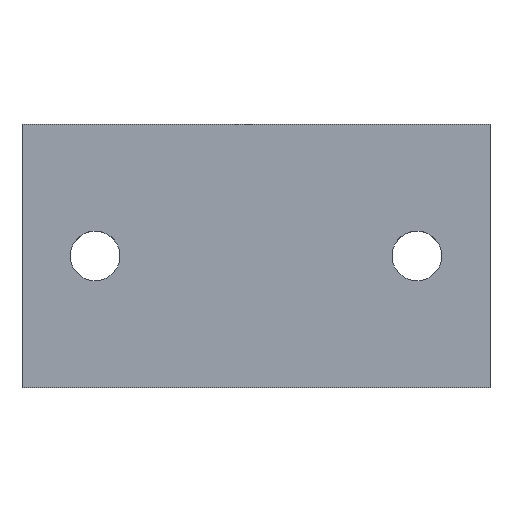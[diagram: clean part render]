
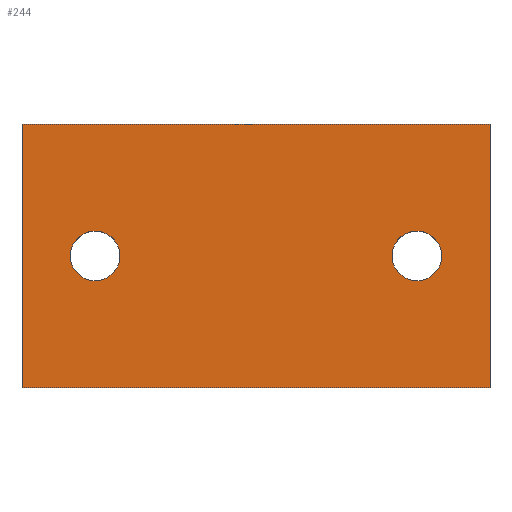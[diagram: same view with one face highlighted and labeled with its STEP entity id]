
A CAD part, top view. The second image highlights one B-rep face of the part: STEP entity #244.
In plain terms, the highlighted planar face has unit normal (0, 0, 1).
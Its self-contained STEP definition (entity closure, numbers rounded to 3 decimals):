
#24 = VERTEX_POINT('',#25);
#25 = CARTESIAN_POINT('',(-16.,-9.,8.));
#32 = PLANE('',#33);
#33 = AXIS2_PLACEMENT_3D('',#34,#35,#36);
#34 = CARTESIAN_POINT('',(-16.,-9.,0.));
#35 = DIRECTION('',(1.,0.,0.));
#36 = DIRECTION('',(0.,0.,1.));
#44 = PLANE('',#45);
#45 = AXIS2_PLACEMENT_3D('',#46,#47,#48);
#46 = CARTESIAN_POINT('',(-16.,-9.,0.));
#47 = DIRECTION('',(0.,1.,0.));
#48 = DIRECTION('',(0.,0.,1.));
#85 = VERTEX_POINT('',#86);
#86 = CARTESIAN_POINT('',(-16.,9.,8.));
#100 = PLANE('',#101);
#101 = AXIS2_PLACEMENT_3D('',#102,#103,#104);
#102 = CARTESIAN_POINT('',(-16.,9.,0.));
#103 = DIRECTION('',(0.,1.,0.));
#104 = DIRECTION('',(0.,0.,1.));
#112 = EDGE_CURVE('',#24,#85,#113,.T.);
#113 = SURFACE_CURVE('',#114,(#118,#125),.PCURVE_S1.);
#114 = LINE('',#115,#116);
#115 = CARTESIAN_POINT('',(-16.,-9.,8.));
#116 = VECTOR('',#117,1.);
#117 = DIRECTION('',(0.,1.,0.));
#118 = PCURVE('',#32,#119);
#119 = DEFINITIONAL_REPRESENTATION('',(#120),#124);
#120 = LINE('',#121,#122);
#121 = CARTESIAN_POINT('',(8.,0.));
#122 = VECTOR('',#123,1.);
#123 = DIRECTION('',(0.,-1.));
#124 = ( GEOMETRIC_REPRESENTATION_CONTEXT(2) 
PARAMETRIC_REPRESENTATION_CONTEXT() REPRESENTATION_CONTEXT('2D SPACE',''
  ) );
#125 = PCURVE('',#126,#131);
#126 = PLANE('',#127);
#127 = AXIS2_PLACEMENT_3D('',#128,#129,#130);
#128 = CARTESIAN_POINT('',(-16.,-9.,8.));
#129 = DIRECTION('',(0.,0.,1.));
#130 = DIRECTION('',(1.,0.,0.));
#131 = DEFINITIONAL_REPRESENTATION('',(#132),#136);
#132 = LINE('',#133,#134);
#133 = CARTESIAN_POINT('',(0.,0.));
#134 = VECTOR('',#135,1.);
#135 = DIRECTION('',(0.,1.));
#136 = ( GEOMETRIC_REPRESENTATION_CONTEXT(2) 
PARAMETRIC_REPRESENTATION_CONTEXT() REPRESENTATION_CONTEXT('2D SPACE',''
  ) );
#165 = EDGE_CURVE('',#24,#166,#168,.T.);
#166 = VERTEX_POINT('',#167);
#167 = CARTESIAN_POINT('',(16.,-9.,8.));
#168 = SURFACE_CURVE('',#169,(#173,#180),.PCURVE_S1.);
#169 = LINE('',#170,#171);
#170 = CARTESIAN_POINT('',(-16.,-9.,8.));
#171 = VECTOR('',#172,1.);
#172 = DIRECTION('',(1.,0.,0.));
#173 = PCURVE('',#44,#174);
#174 = DEFINITIONAL_REPRESENTATION('',(#175),#179);
#175 = LINE('',#176,#177);
#176 = CARTESIAN_POINT('',(8.,0.));
#177 = VECTOR('',#178,1.);
#178 = DIRECTION('',(0.,1.));
#179 = ( GEOMETRIC_REPRESENTATION_CONTEXT(2) 
PARAMETRIC_REPRESENTATION_CONTEXT() REPRESENTATION_CONTEXT('2D SPACE',''
  ) );
#180 = PCURVE('',#126,#181);
#181 = DEFINITIONAL_REPRESENTATION('',(#182),#186);
#182 = LINE('',#183,#184);
#183 = CARTESIAN_POINT('',(0.,0.));
#184 = VECTOR('',#185,1.);
#185 = DIRECTION('',(1.,0.));
#186 = ( GEOMETRIC_REPRESENTATION_CONTEXT(2) 
PARAMETRIC_REPRESENTATION_CONTEXT() REPRESENTATION_CONTEXT('2D SPACE',''
  ) );
#202 = PLANE('',#203);
#203 = AXIS2_PLACEMENT_3D('',#204,#205,#206);
#204 = CARTESIAN_POINT('',(16.,-9.,0.));
#205 = DIRECTION('',(1.,0.,0.));
#206 = DIRECTION('',(0.,0.,1.));
#244 = ADVANCED_FACE('',(#245,#293,#328),#126,.T.);
#245 = FACE_BOUND('',#246,.T.);
#246 = EDGE_LOOP('',(#247,#248,#249,#272));
#247 = ORIENTED_EDGE('',*,*,#112,.F.);
#248 = ORIENTED_EDGE('',*,*,#165,.T.);
#249 = ORIENTED_EDGE('',*,*,#250,.T.);
#250 = EDGE_CURVE('',#166,#251,#253,.T.);
#251 = VERTEX_POINT('',#252);
#252 = CARTESIAN_POINT('',(16.,9.,8.));
#253 = SURFACE_CURVE('',#254,(#258,#265),.PCURVE_S1.);
#254 = LINE('',#255,#256);
#255 = CARTESIAN_POINT('',(16.,-9.,8.));
#256 = VECTOR('',#257,1.);
#257 = DIRECTION('',(0.,1.,0.));
#258 = PCURVE('',#126,#259);
#259 = DEFINITIONAL_REPRESENTATION('',(#260),#264);
#260 = LINE('',#261,#262);
#261 = CARTESIAN_POINT('',(32.,0.));
#262 = VECTOR('',#263,1.);
#263 = DIRECTION('',(0.,1.));
#264 = ( GEOMETRIC_REPRESENTATION_CONTEXT(2) 
PARAMETRIC_REPRESENTATION_CONTEXT() REPRESENTATION_CONTEXT('2D SPACE',''
  ) );
#265 = PCURVE('',#202,#266);
#266 = DEFINITIONAL_REPRESENTATION('',(#267),#271);
#267 = LINE('',#268,#269);
#268 = CARTESIAN_POINT('',(8.,0.));
#269 = VECTOR('',#270,1.);
#270 = DIRECTION('',(0.,-1.));
#271 = ( GEOMETRIC_REPRESENTATION_CONTEXT(2) 
PARAMETRIC_REPRESENTATION_CONTEXT() REPRESENTATION_CONTEXT('2D SPACE',''
  ) );
#272 = ORIENTED_EDGE('',*,*,#273,.F.);
#273 = EDGE_CURVE('',#85,#251,#274,.T.);
#274 = SURFACE_CURVE('',#275,(#279,#286),.PCURVE_S1.);
#275 = LINE('',#276,#277);
#276 = CARTESIAN_POINT('',(-16.,9.,8.));
#277 = VECTOR('',#278,1.);
#278 = DIRECTION('',(1.,0.,0.));
#279 = PCURVE('',#126,#280);
#280 = DEFINITIONAL_REPRESENTATION('',(#281),#285);
#281 = LINE('',#282,#283);
#282 = CARTESIAN_POINT('',(0.,18.));
#283 = VECTOR('',#284,1.);
#284 = DIRECTION('',(1.,0.));
#285 = ( GEOMETRIC_REPRESENTATION_CONTEXT(2) 
PARAMETRIC_REPRESENTATION_CONTEXT() REPRESENTATION_CONTEXT('2D SPACE',''
  ) );
#286 = PCURVE('',#100,#287);
#287 = DEFINITIONAL_REPRESENTATION('',(#288),#292);
#288 = LINE('',#289,#290);
#289 = CARTESIAN_POINT('',(8.,0.));
#290 = VECTOR('',#291,1.);
#291 = DIRECTION('',(0.,1.));
#292 = ( GEOMETRIC_REPRESENTATION_CONTEXT(2) 
PARAMETRIC_REPRESENTATION_CONTEXT() REPRESENTATION_CONTEXT('2D SPACE',''
  ) );
#293 = FACE_BOUND('',#294,.T.);
#294 = EDGE_LOOP('',(#295));
#295 = ORIENTED_EDGE('',*,*,#296,.T.);
#296 = EDGE_CURVE('',#297,#297,#299,.T.);
#297 = VERTEX_POINT('',#298);
#298 = CARTESIAN_POINT('',(-12.7,0.,8.));
#299 = SURFACE_CURVE('',#300,(#305,#316),.PCURVE_S1.);
#300 = CIRCLE('',#301,1.7);
#301 = AXIS2_PLACEMENT_3D('',#302,#303,#304);
#302 = CARTESIAN_POINT('',(-11.,0.,8.));
#303 = DIRECTION('',(0.,0.,-1.));
#304 = DIRECTION('',(-1.,0.,0.));
#305 = PCURVE('',#126,#306);
#306 = DEFINITIONAL_REPRESENTATION('',(#307),#315);
#307 = ( BOUNDED_CURVE() B_SPLINE_CURVE(2,(#308,#309,#310,#311,#312,#313
,#314),.UNSPECIFIED.,.T.,.F.) B_SPLINE_CURVE_WITH_KNOTS((1,2,2,2,2,1),(
    -2.094,0.,2.094,4.189,6.283,
8.378),.UNSPECIFIED.) CURVE() GEOMETRIC_REPRESENTATION_ITEM() 
RATIONAL_B_SPLINE_CURVE((1.,0.5,1.,0.5,1.,0.5,1.)) REPRESENTATION_ITEM(
  '') );
#308 = CARTESIAN_POINT('',(3.3,9.));
#309 = CARTESIAN_POINT('',(3.3,11.944));
#310 = CARTESIAN_POINT('',(5.85,10.472));
#311 = CARTESIAN_POINT('',(8.4,9.));
#312 = CARTESIAN_POINT('',(5.85,7.528));
#313 = CARTESIAN_POINT('',(3.3,6.056));
#314 = CARTESIAN_POINT('',(3.3,9.));
#315 = ( GEOMETRIC_REPRESENTATION_CONTEXT(2) 
PARAMETRIC_REPRESENTATION_CONTEXT() REPRESENTATION_CONTEXT('2D SPACE',''
  ) );
#316 = PCURVE('',#317,#322);
#317 = CYLINDRICAL_SURFACE('',#318,1.7);
#318 = AXIS2_PLACEMENT_3D('',#319,#320,#321);
#319 = CARTESIAN_POINT('',(-11.,0.,8.));
#320 = DIRECTION('',(0.,0.,-1.));
#321 = DIRECTION('',(-1.,0.,0.));
#322 = DEFINITIONAL_REPRESENTATION('',(#323),#327);
#323 = LINE('',#324,#325);
#324 = CARTESIAN_POINT('',(0.,0.));
#325 = VECTOR('',#326,1.);
#326 = DIRECTION('',(1.,0.));
#327 = ( GEOMETRIC_REPRESENTATION_CONTEXT(2) 
PARAMETRIC_REPRESENTATION_CONTEXT() REPRESENTATION_CONTEXT('2D SPACE',''
  ) );
#328 = FACE_BOUND('',#329,.T.);
#329 = EDGE_LOOP('',(#330));
#330 = ORIENTED_EDGE('',*,*,#331,.T.);
#331 = EDGE_CURVE('',#332,#332,#334,.T.);
#332 = VERTEX_POINT('',#333);
#333 = CARTESIAN_POINT('',(9.3,0.,8.));
#334 = SURFACE_CURVE('',#335,(#340,#351),.PCURVE_S1.);
#335 = CIRCLE('',#336,1.7);
#336 = AXIS2_PLACEMENT_3D('',#337,#338,#339);
#337 = CARTESIAN_POINT('',(11.,0.,8.));
#338 = DIRECTION('',(0.,0.,-1.));
#339 = DIRECTION('',(-1.,0.,0.));
#340 = PCURVE('',#126,#341);
#341 = DEFINITIONAL_REPRESENTATION('',(#342),#350);
#342 = ( BOUNDED_CURVE() B_SPLINE_CURVE(2,(#343,#344,#345,#346,#347,#348
,#349),.UNSPECIFIED.,.T.,.F.) B_SPLINE_CURVE_WITH_KNOTS((1,2,2,2,2,1),(
    -2.094,0.,2.094,4.189,6.283,
8.378),.UNSPECIFIED.) CURVE() GEOMETRIC_REPRESENTATION_ITEM() 
RATIONAL_B_SPLINE_CURVE((1.,0.5,1.,0.5,1.,0.5,1.)) REPRESENTATION_ITEM(
  '') );
#343 = CARTESIAN_POINT('',(25.3,9.));
#344 = CARTESIAN_POINT('',(25.3,11.944));
#345 = CARTESIAN_POINT('',(27.85,10.472));
#346 = CARTESIAN_POINT('',(30.4,9.));
#347 = CARTESIAN_POINT('',(27.85,7.528));
#348 = CARTESIAN_POINT('',(25.3,6.056));
#349 = CARTESIAN_POINT('',(25.3,9.));
#350 = ( GEOMETRIC_REPRESENTATION_CONTEXT(2) 
PARAMETRIC_REPRESENTATION_CONTEXT() REPRESENTATION_CONTEXT('2D SPACE',''
  ) );
#351 = PCURVE('',#352,#357);
#352 = CYLINDRICAL_SURFACE('',#353,1.7);
#353 = AXIS2_PLACEMENT_3D('',#354,#355,#356);
#354 = CARTESIAN_POINT('',(11.,0.,8.));
#355 = DIRECTION('',(0.,0.,-1.));
#356 = DIRECTION('',(-1.,0.,0.));
#357 = DEFINITIONAL_REPRESENTATION('',(#358),#362);
#358 = LINE('',#359,#360);
#359 = CARTESIAN_POINT('',(0.,0.));
#360 = VECTOR('',#361,1.);
#361 = DIRECTION('',(1.,0.));
#362 = ( GEOMETRIC_REPRESENTATION_CONTEXT(2) 
PARAMETRIC_REPRESENTATION_CONTEXT() REPRESENTATION_CONTEXT('2D SPACE',''
  ) );
